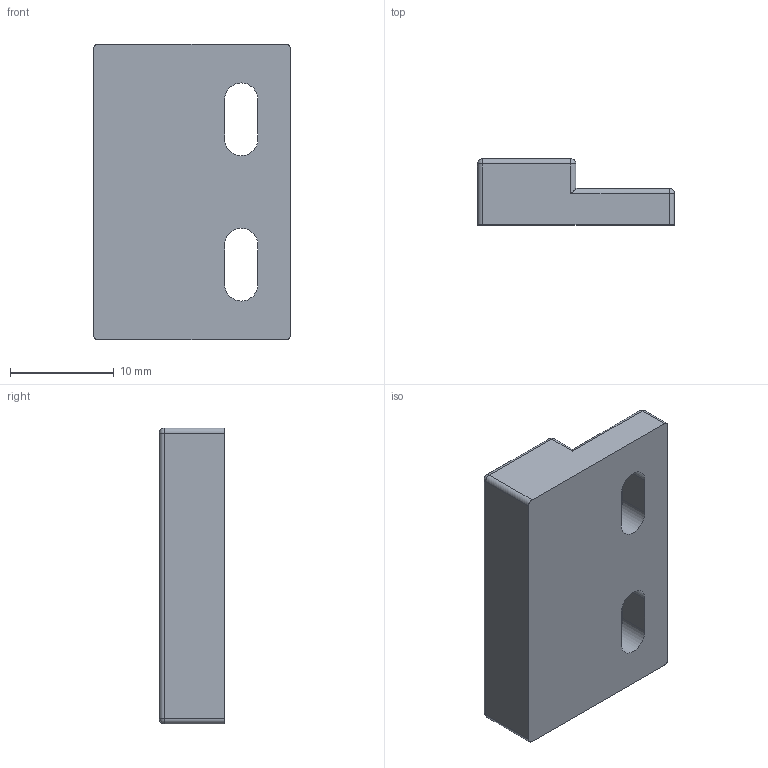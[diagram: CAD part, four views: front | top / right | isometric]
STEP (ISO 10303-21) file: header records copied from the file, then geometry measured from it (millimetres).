
FILE_DESCRIPTION(/* description */ ('Katalogmodell Elobau'),/* implementation_level */ '2;1');
FILE_NAME(/* name */ 'Katalogdaten.stp',/* time_stamp */ '2014-06-26T13:36:29+02:00',/* author */ ('Elobau GmbH & Co. KG'),/* organization */ ('Elobau GmbH & Co. KG'),/* preprocessor_version */ 'ST-DEVELOPER v15',/* originating_system */ 'SIEMENS PLM Software NX 8.5',/* authorisation */ '');
FILE_SCHEMA (('AUTOMOTIVE_DESIGN { 1 0 10303 214 3 1 1 1 }'));
Length unit declared in the file: millimetre
Products named in the file (1): 324SG001_B
Bounding box: 19 x 6.35 x 28.5 mm (x, y, z)
Volume: 2516 mm3; surface area: 1635.4 mm2
Topology: 1 solids, 1 shells, 43 faces, 101 edges, 54 vertices
Faces by surface type: cylinder 21, plane 12, bspline 10
Entity records: 1306 total; most frequent: CARTESIAN_POINT 343, DIRECTION 203, ORIENTED_EDGE 190, EDGE_CURVE 95, AXIS2_PLACEMENT_3D 76, VERTEX_POINT 54, LINE 51, VECTOR 51
